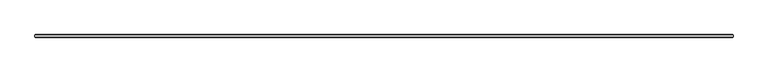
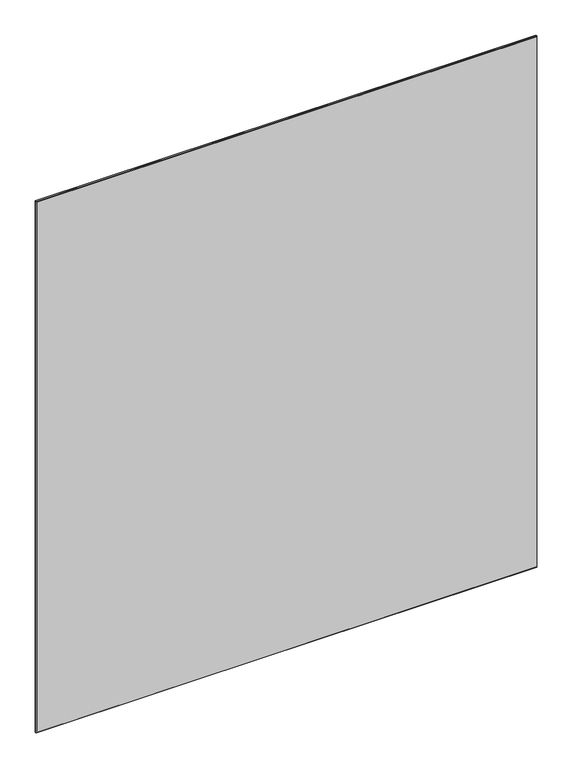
"""IFC4 building model written with IfcOpenShell, lengths in millimetres: plate geometry, 1-AMG-1-Панель одинарный витраж 8, 10 : Смещение 32 Толщина 8mm."""

from ifc_helpers import new_model, si_unit, origin, place, context, project, spatial, faceted_brep, source, transform, mapped, element, save


def plate_b4f278bb(model_context):
    return source(origin(), model_context, "Body", "Brep", [
        faceted_brep([(918.9488281, 29.5038347, 2047.8976562), (918.9488281, 34.4961653, 2047.8976562), (-913.9488281, 34.4961653, 2047.8976562), (-913.9488281, 29.5038347, 2047.8976562), (918.9488281, 34.4961653, -7.0), (918.9488281, 29.5038347, -7.0), (-913.9488281, 29.5038347, -7.0), (-913.9488281, 34.4961653, -7.0), (-912.4449934, 36.0, 2046.3938215), (917.4449934, 36.0, 2046.3938215), (917.4449934, 36.0, -5.5039422), (-912.4449934, 36.0, -5.5039422), (917.4449934, 28.0, 2046.3938215), (-912.4449934, 28.0, 2046.3938215), (-912.4449934, 28.0, -5.4961653), (917.4449934, 28.0, -5.4961653)], [[[0, 1, 2, 3]], [[4, 5, 6, 7]], [[8, 9, 10, 11]], [[3, 2, 7, 6]], [[12, 13, 14, 15]], [[1, 0, 5, 4]], [[1, 4, 10, 9]], [[5, 0, 12, 15]], [[7, 2, 8, 11]], [[3, 6, 14, 13]], [[0, 3, 13, 12]], [[2, 1, 9, 8]], [[6, 5, 15, 14]], [[4, 7, 11, 10]]]),
    ])


if __name__ == "__main__":
    model = new_model("IFC4")
    model_context = context("Model", 3, world=origin())
    ifc_project = project(units=[si_unit("LENGTHUNIT", "METRE", prefix="MILLI")], contexts=[model_context])
    site = spatial("IfcSite", under=ifc_project)
    building = spatial("IfcBuilding", under=site)
    placement = place(None, origin())
    plate_shape = plate_b4f278bb(model_context)
    element("IfcPlate", 1, ObjectType="1-AMG-1-Панель одинарный витраж 8, 10 : Смещение 32 Толщина 8mm", at=placement, inside=building, context=model_context, shape_type="MappedRepresentation", body=[
        mapped(plate_shape, transform((0.0, 0.0, 0.0), x_axis=(1.0, 0.0, 0.0), y_axis=(0.0, 1.0, 0.0), z_axis=(0.0, 0.0, 1.0))),
    ])
    save(model, "model.ifc")
